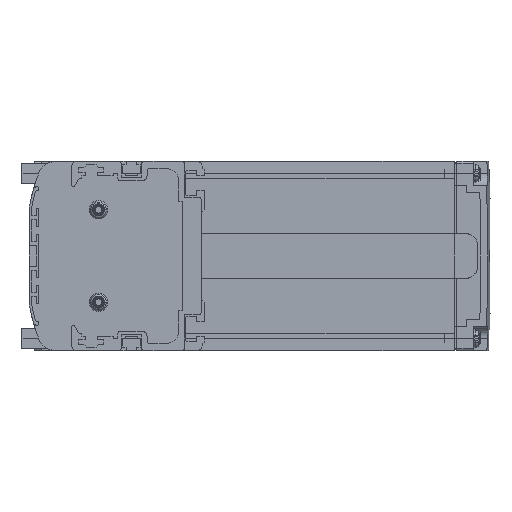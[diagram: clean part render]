
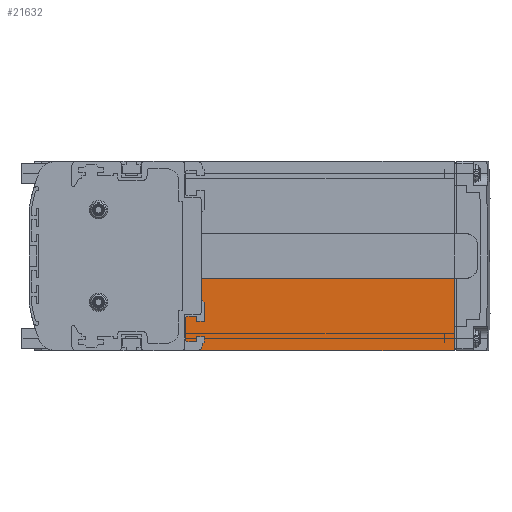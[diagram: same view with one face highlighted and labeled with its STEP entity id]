
A CAD part, left-side view. The second image highlights one B-rep face of the part: STEP entity #21632.
In plain terms, the highlighted planar face has unit normal (-1, 0, 0).
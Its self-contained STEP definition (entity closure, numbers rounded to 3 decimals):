
#318=DIRECTION('',(0.,0.,1.));
#319=VECTOR('',#318,29.9);
#320=CARTESIAN_POINT('',(3.,-103.,-39.));
#321=LINE('',#320,#319);
#564=DIRECTION('',(0.,1.,0.));
#565=VECTOR('',#564,112.);
#566=CARTESIAN_POINT('',(3.,-103.,-39.));
#567=LINE('',#566,#565);
#3219=DIRECTION('',(0.,0.,1.));
#3220=VECTOR('',#3219,13.9);
#3221=CARTESIAN_POINT('',(3.,1.,-23.));
#3222=LINE('',#3221,#3220);
#5245=DIRECTION('',(0.,1.,0.));
#5246=VECTOR('',#5245,104.);
#5247=CARTESIAN_POINT('',(3.,-103.,-9.1));
#5248=LINE('',#5247,#5246);
#13324=CARTESIAN_POINT('',(3.,2.,-23.));
#13325=DIRECTION('',(-1.,0.,0.));
#13326=DIRECTION('',(0.,0.,-1.));
#13327=AXIS2_PLACEMENT_3D('',#13324,#13325,#13326);
#13337=DIRECTION('',(0.,1.,0.));
#13338=VECTOR('',#13337,6.);
#13339=CARTESIAN_POINT('',(3.,2.,-24.));
#13340=LINE('',#13339,#13338);
#13341=DIRECTION('',(0.,0.,-1.));
#13342=VECTOR('',#13341,14.);
#13343=CARTESIAN_POINT('',(3.,8.,-24.));
#13344=LINE('',#13343,#13342);
#13349=CARTESIAN_POINT('',(3.,9.,-38.));
#13350=DIRECTION('',(-1.,0.,0.));
#13351=DIRECTION('',(0.,0.,-1.));
#13352=AXIS2_PLACEMENT_3D('',#13349,#13350,#13351);
#17077=CARTESIAN_POINT('',(3.,-103.,-39.));
#17078=VERTEX_POINT('',#17077);
#17079=CARTESIAN_POINT('',(3.,-103.,-9.1));
#17080=VERTEX_POINT('',#17079);
#20577=CARTESIAN_POINT('',(3.,1.,-23.));
#20578=CARTESIAN_POINT('',(3.,1.,-9.1));
#20579=VERTEX_POINT('',#20577);
#20580=VERTEX_POINT('',#20578);
#20625=CARTESIAN_POINT('',(3.,2.,-24.));
#20626=VERTEX_POINT('',#20625);
#20627=CARTESIAN_POINT('',(3.,8.,-24.));
#20628=VERTEX_POINT('',#20627);
#20629=CARTESIAN_POINT('',(3.,8.,-38.));
#20630=VERTEX_POINT('',#20629);
#20631=CARTESIAN_POINT('',(3.,9.,-39.));
#20632=VERTEX_POINT('',#20631);
#21610=CARTESIAN_POINT('',(3.,48.25,0.));
#21611=DIRECTION('',(1.,0.,0.));
#21612=DIRECTION('',(0.,1.,0.));
#21613=AXIS2_PLACEMENT_3D('',#21610,#21611,#21612);
#21614=PLANE('',#21613);
#21616=ORIENTED_EDGE('',*,*,#21615,.T.);
#21618=ORIENTED_EDGE('',*,*,#21617,.F.);
#21619=ORIENTED_EDGE('',*,*,#21167,.F.);
#21621=ORIENTED_EDGE('',*,*,#21620,.T.);
#21623=ORIENTED_EDGE('',*,*,#21622,.T.);
#21625=ORIENTED_EDGE('',*,*,#21624,.F.);
#21627=ORIENTED_EDGE('',*,*,#21626,.F.);
#21629=ORIENTED_EDGE('',*,*,#21628,.T.);
#21630=EDGE_LOOP('',(#21616,#21618,#21619,#21621,#21623,#21625,#21627,#21629));
#21631=FACE_OUTER_BOUND('',#21630,.F.);
#21632=ADVANCED_FACE('',(#21631),#21614,.F.);
#13328=CIRCLE('',#13327,1.);
#13353=CIRCLE('',#13352,1.);
#21167=EDGE_CURVE('',#17078,#17080,#321,.T.);
#21615=EDGE_CURVE('',#20579,#20580,#3222,.T.);
#21617=EDGE_CURVE('',#17080,#20580,#5248,.T.);
#21620=EDGE_CURVE('',#17078,#20632,#567,.T.);
#21622=EDGE_CURVE('',#20632,#20630,#13353,.T.);
#21624=EDGE_CURVE('',#20628,#20630,#13344,.T.);
#21626=EDGE_CURVE('',#20626,#20628,#13340,.T.);
#21628=EDGE_CURVE('',#20626,#20579,#13328,.T.);
